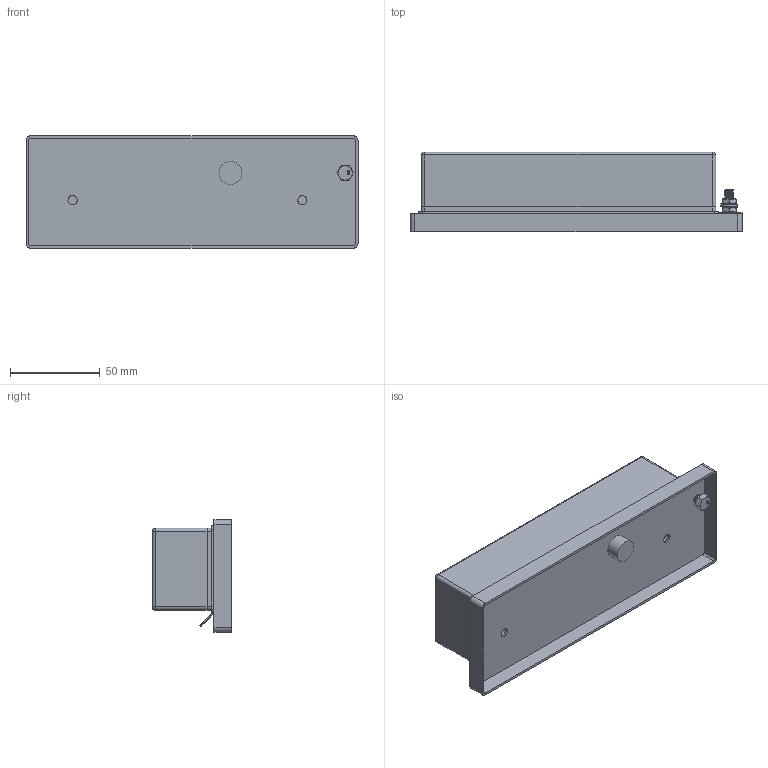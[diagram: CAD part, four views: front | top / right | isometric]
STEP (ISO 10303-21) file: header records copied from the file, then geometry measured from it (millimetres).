
FILE_DESCRIPTION(/* description */ (''),/* implementation_level */ '2;1');
FILE_NAME(/* name */ 'C:\Users\Hani\Desktop\work\BLR-I-610\BLR-I-610.stp',/* time_stamp */ '2021-07-08T11:53:42-07:00',/* author */ ('Hani'),/* organization */ (''),/* preprocessor_version */ 'ST-DEVELOPER v17',/* originating_system */ 'Autodesk Inventor 2019',/* authorisation */ '');
FILE_SCHEMA (('AUTOMOTIVE_DESIGN { 1 0 10303 214 3 1 1 }'));
Length unit declared in the file: inch
Products named in the file (10): BLR-I-604; Base; BLR-I-604-Block; terminal; BLR-604-Cover; plate; M5 Bolt; washer; M5 Lock Washer; M5 Nut
Assembly tree (19 placements, depth 2):
  BLR-I-604
    Base
    BLR-I-604-Block
    terminal  x10
    BLR-604-Cover
    plate
    M5 Bolt
    washer
    M5 Nut  x2
    M5 Lock Washer
Bounding box: 184.91 x 44.25 x 62.48 mm (x, y, z)
Volume: 154176.7 mm3; surface area: 101330.7 mm2
Topology: 19 solids, 19 shells, 1024 faces, 2747 edges, 1813 vertices
Faces by surface type: plane 584, bspline 225, cylinder 177, cone 20, sphere 14, torus 4
Full cylindrical faces by diameter (mm): 1.905 x10, 2.54 x9, 3.961 x23, 5 x25, 5.08 x7, 8.255 x1, 9.779 x2, 12.7 x1
Entity records: 34676 total; most frequent: CARTESIAN_POINT 14472, ORIENTED_EDGE 4580, DIRECTION 3229, EDGE_CURVE 2290, VERTEX_POINT 1521, LINE 1517, VECTOR 1517, EDGE_LOOP 929
